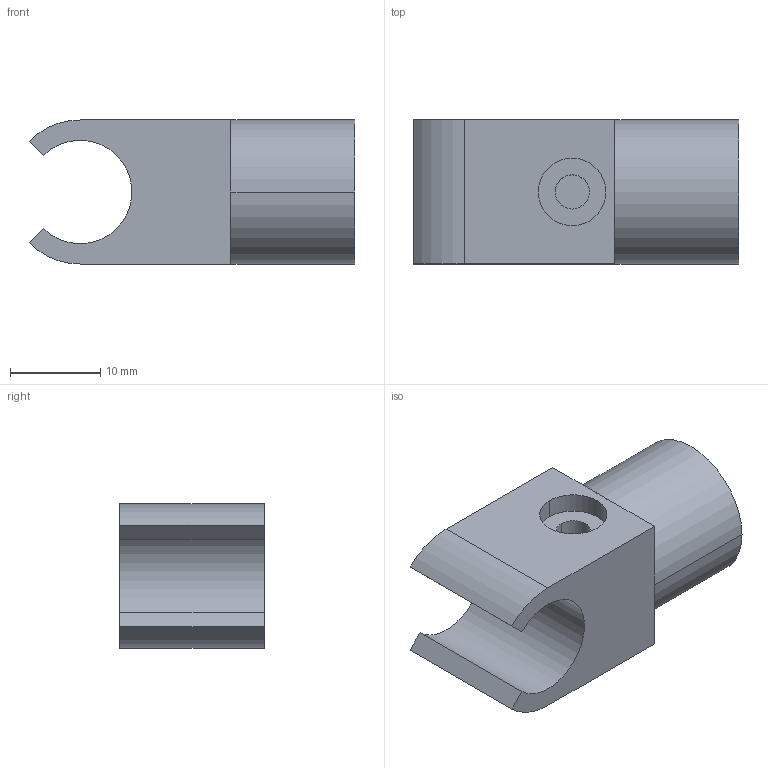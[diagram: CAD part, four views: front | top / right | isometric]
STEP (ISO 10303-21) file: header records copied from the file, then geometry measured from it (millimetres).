
FILE_DESCRIPTION (( 'STEP AP214' ), '1' );
FILE_NAME ('Querrelinghalter einfach.STEP', '2010-09-16T13:00:42', ( 'grass' ), ( '' ), 'SwSTEP 2.0', 'SolidWorks 2010', '' );
FILE_SCHEMA (( 'AUTOMOTIVE_DESIGN' ));
Length unit declared in the file: millimetre
Products named in the file (1): Querrelinghalter einfach
Bounding box: 36.16 x 16 x 16 mm (x, y, z)
Volume: 6447.5 mm3; surface area: 2791.6 mm2
Topology: 1 solids, 1 shells, 22 faces, 48 edges, 30 vertices
Faces by surface type: plane 13, cylinder 9
Entity records: 638 total; most frequent: DIRECTION 114, CARTESIAN_POINT 101, ORIENTED_EDGE 96, EDGE_CURVE 48, AXIS2_PLACEMENT_3D 43, VERTEX_POINT 30, LINE 28, VECTOR 28
